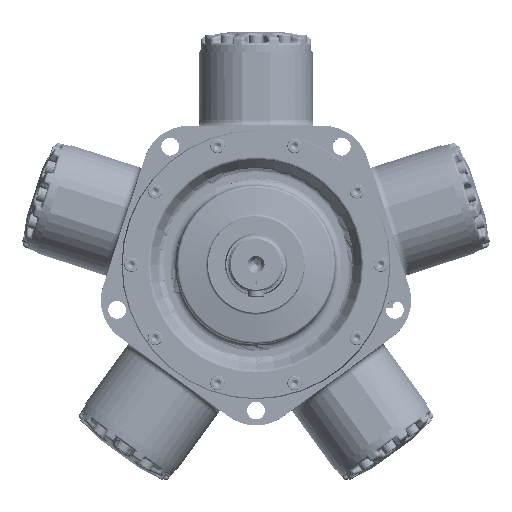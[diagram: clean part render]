
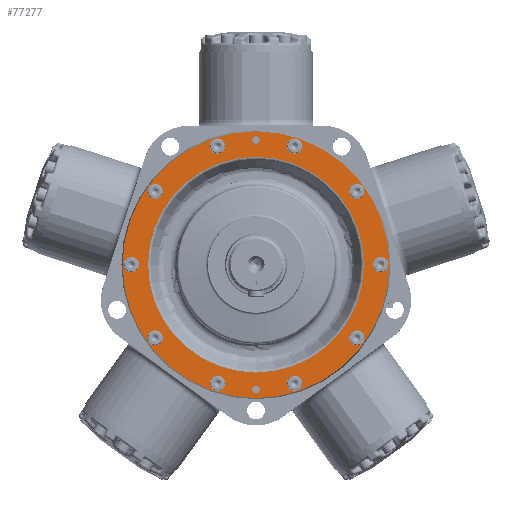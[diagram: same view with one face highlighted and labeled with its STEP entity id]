
A CAD part, top view. The second image highlights one B-rep face of the part: STEP entity #77277.
In plain terms, the highlighted planar face has unit normal (0, 0, 1).
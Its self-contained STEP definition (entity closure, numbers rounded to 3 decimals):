
#3657=FACE_BOUND('',#18332,.T.);
#3658=FACE_BOUND('',#18333,.T.);
#3659=FACE_BOUND('',#18334,.T.);
#3660=FACE_BOUND('',#18335,.T.);
#3661=FACE_BOUND('',#18336,.T.);
#3662=FACE_BOUND('',#18337,.T.);
#3663=FACE_BOUND('',#18338,.T.);
#3664=FACE_BOUND('',#18339,.T.);
#3665=FACE_BOUND('',#18340,.T.);
#3666=FACE_BOUND('',#18341,.T.);
#3667=FACE_BOUND('',#18342,.T.);
#3668=FACE_BOUND('',#18343,.T.);
#3669=FACE_BOUND('',#18344,.T.);
#8602=PLANE('',#84334);
#13168=FACE_OUTER_BOUND('',#18331,.T.);
#18331=EDGE_LOOP('',(#69916));
#18332=EDGE_LOOP('',(#69917));
#18333=EDGE_LOOP('',(#69918));
#18334=EDGE_LOOP('',(#69919));
#18335=EDGE_LOOP('',(#69920));
#18336=EDGE_LOOP('',(#69921));
#18337=EDGE_LOOP('',(#69922));
#18338=EDGE_LOOP('',(#69923));
#18339=EDGE_LOOP('',(#69924));
#18340=EDGE_LOOP('',(#69925));
#18341=EDGE_LOOP('',(#69926));
#18342=EDGE_LOOP('',(#69927));
#18343=EDGE_LOOP('',(#69928));
#18344=EDGE_LOOP('',(#69929));
#29599=CIRCLE('',#84258,4.188);
#29601=CIRCLE('',#84261,4.188);
#29603=CIRCLE('',#84264,8.5);
#29604=CIRCLE('',#84266,8.5);
#29605=CIRCLE('',#84268,8.5);
#29606=CIRCLE('',#84270,8.5);
#29607=CIRCLE('',#84272,8.5);
#29608=CIRCLE('',#84274,8.5);
#29609=CIRCLE('',#84276,8.5);
#29610=CIRCLE('',#84278,8.5);
#29611=CIRCLE('',#84280,8.5);
#29613=CIRCLE('',#84283,8.5);
#29614=CIRCLE('',#84285,149.491);
#29622=CIRCLE('',#84327,120.896);
#36251=VERTEX_POINT('',#193122);
#36253=VERTEX_POINT('',#193128);
#36255=VERTEX_POINT('',#193134);
#36256=VERTEX_POINT('',#193138);
#36257=VERTEX_POINT('',#193142);
#36258=VERTEX_POINT('',#193146);
#36259=VERTEX_POINT('',#193150);
#36260=VERTEX_POINT('',#193154);
#36261=VERTEX_POINT('',#193158);
#36262=VERTEX_POINT('',#193162);
#36263=VERTEX_POINT('',#193166);
#36265=VERTEX_POINT('',#193172);
#36266=VERTEX_POINT('',#193176);
#36515=VERTEX_POINT('',#194701);
#47660=EDGE_CURVE('',#36251,#36251,#29599,.T.);
#47663=EDGE_CURVE('',#36253,#36253,#29601,.T.);
#47667=EDGE_CURVE('',#36255,#36255,#29603,.T.);
#47669=EDGE_CURVE('',#36256,#36256,#29604,.T.);
#47671=EDGE_CURVE('',#36257,#36257,#29605,.T.);
#47673=EDGE_CURVE('',#36258,#36258,#29606,.T.);
#47675=EDGE_CURVE('',#36259,#36259,#29607,.T.);
#47677=EDGE_CURVE('',#36260,#36260,#29608,.T.);
#47679=EDGE_CURVE('',#36261,#36261,#29609,.T.);
#47681=EDGE_CURVE('',#36262,#36262,#29610,.T.);
#47683=EDGE_CURVE('',#36263,#36263,#29611,.T.);
#47686=EDGE_CURVE('',#36265,#36265,#29613,.T.);
#47687=EDGE_CURVE('',#36266,#36266,#29614,.T.);
#47998=EDGE_CURVE('',#36515,#36515,#29622,.T.);
#69916=ORIENTED_EDGE('',*,*,#47687,.F.);
#69917=ORIENTED_EDGE('',*,*,#47998,.T.);
#69918=ORIENTED_EDGE('',*,*,#47686,.T.);
#69919=ORIENTED_EDGE('',*,*,#47683,.T.);
#69920=ORIENTED_EDGE('',*,*,#47681,.T.);
#69921=ORIENTED_EDGE('',*,*,#47679,.T.);
#69922=ORIENTED_EDGE('',*,*,#47677,.T.);
#69923=ORIENTED_EDGE('',*,*,#47675,.T.);
#69924=ORIENTED_EDGE('',*,*,#47673,.T.);
#69925=ORIENTED_EDGE('',*,*,#47671,.T.);
#69926=ORIENTED_EDGE('',*,*,#47669,.T.);
#69927=ORIENTED_EDGE('',*,*,#47667,.T.);
#69928=ORIENTED_EDGE('',*,*,#47663,.T.);
#69929=ORIENTED_EDGE('',*,*,#47660,.T.);
#77277=ADVANCED_FACE('',(#13168,#3657,#3658,#3659,#3660,#3661,#3662,#3663,
#3664,#3665,#3666,#3667,#3668,#3669),#8602,.T.);
#84258=AXIS2_PLACEMENT_3D('',#193123,#101200,#101201);
#84261=AXIS2_PLACEMENT_3D('',#193129,#101207,#101208);
#84264=AXIS2_PLACEMENT_3D('',#193136,#101215,#101216);
#84266=AXIS2_PLACEMENT_3D('',#193140,#101220,#101221);
#84268=AXIS2_PLACEMENT_3D('',#193144,#101225,#101226);
#84270=AXIS2_PLACEMENT_3D('',#193148,#101230,#101231);
#84272=AXIS2_PLACEMENT_3D('',#193152,#101235,#101236);
#84274=AXIS2_PLACEMENT_3D('',#193156,#101240,#101241);
#84276=AXIS2_PLACEMENT_3D('',#193160,#101245,#101246);
#84278=AXIS2_PLACEMENT_3D('',#193164,#101250,#101251);
#84280=AXIS2_PLACEMENT_3D('',#193168,#101255,#101256);
#84283=AXIS2_PLACEMENT_3D('',#193174,#101262,#101263);
#84285=AXIS2_PLACEMENT_3D('',#193177,#101266,#101267);
#84327=AXIS2_PLACEMENT_3D('',#194702,#101501,#101502);
#84334=AXIS2_PLACEMENT_3D('',#194714,#101516,#101517);
#101200=DIRECTION('center_axis',(0.,0.,
-1.));
#101201=DIRECTION('ref_axis',(-1.,0.,0.));
#101207=DIRECTION('center_axis',(0.,0.,
-1.));
#101208=DIRECTION('ref_axis',(-1.,0.,0.));
#101215=DIRECTION('center_axis',(0.,0.,
-1.));
#101216=DIRECTION('ref_axis',(0.809,-0.588,0.));
#101220=DIRECTION('center_axis',(0.,0.,
-1.));
#101221=DIRECTION('ref_axis',(0.309,-0.951,0.));
#101225=DIRECTION('center_axis',(0.,0.,
-1.));
#101226=DIRECTION('ref_axis',(-0.309,-0.951,0.));
#101230=DIRECTION('center_axis',(0.,0.,
-1.));
#101231=DIRECTION('ref_axis',(-0.809,-0.588,0.));
#101235=DIRECTION('center_axis',(0.,0.,
-1.));
#101236=DIRECTION('ref_axis',(-1.,0.,0.));
#101240=DIRECTION('center_axis',(0.,0.,
-1.));
#101241=DIRECTION('ref_axis',(-0.809,0.588,0.));
#101245=DIRECTION('center_axis',(0.,0.,
-1.));
#101246=DIRECTION('ref_axis',(-0.309,0.951,0.));
#101250=DIRECTION('center_axis',(0.,0.,
-1.));
#101251=DIRECTION('ref_axis',(0.309,0.951,0.));
#101255=DIRECTION('center_axis',(0.,0.,
-1.));
#101256=DIRECTION('ref_axis',(0.809,0.588,0.));
#101262=DIRECTION('center_axis',(0.,0.,
-1.));
#101263=DIRECTION('ref_axis',(1.,0.,0.));
#101266=DIRECTION('center_axis',(0.,0.,
-1.));
#101267=DIRECTION('ref_axis',(0.,1.,0.));
#101501=DIRECTION('center_axis',(0.,0.,
-1.));
#101502=DIRECTION('ref_axis',(0.,-1.,0.));
#101516=DIRECTION('center_axis',(0.,0.,
1.));
#101517=DIRECTION('ref_axis',(-1.,0.,0.));
#193122=CARTESIAN_POINT('',(4.188,-139.7,85.078));
#193123=CARTESIAN_POINT('Origin',(0.,-139.7,85.078));
#193128=CARTESIAN_POINT('',(4.188,139.7,85.078));
#193129=CARTESIAN_POINT('Origin',(0.,139.7,85.078));
#193134=CARTESIAN_POINT('',(-119.896,87.11,85.078));
#193136=CARTESIAN_POINT('Origin',(-113.02,82.114,85.078));
#193138=CARTESIAN_POINT('',(-45.796,140.947,85.078));
#193140=CARTESIAN_POINT('Origin',(-43.17,132.863,85.078));
#193142=CARTESIAN_POINT('',(45.796,140.947,85.078));
#193144=CARTESIAN_POINT('Origin',(43.17,132.863,85.078));
#193146=CARTESIAN_POINT('',(119.896,87.11,85.078));
#193148=CARTESIAN_POINT('Origin',(113.02,82.114,85.078));
#193150=CARTESIAN_POINT('',(148.2,0.,85.078));
#193152=CARTESIAN_POINT('Origin',(139.7,0.,85.078));
#193154=CARTESIAN_POINT('',(119.896,-87.11,85.078));
#193156=CARTESIAN_POINT('Origin',(113.02,-82.114,85.078));
#193158=CARTESIAN_POINT('',(45.796,-140.947,85.078));
#193160=CARTESIAN_POINT('Origin',(43.17,-132.863,85.078));
#193162=CARTESIAN_POINT('',(-45.796,-140.947,85.078));
#193164=CARTESIAN_POINT('Origin',(-43.17,-132.863,85.078));
#193166=CARTESIAN_POINT('',(-119.896,-87.11,85.078));
#193168=CARTESIAN_POINT('Origin',(-113.02,-82.114,85.078));
#193172=CARTESIAN_POINT('',(-148.2,0.,85.078));
#193174=CARTESIAN_POINT('Origin',(-139.7,0.,85.078));
#193176=CARTESIAN_POINT('',(0.,-149.491,85.078));
#193177=CARTESIAN_POINT('Origin',(0.,0.,
85.078));
#194701=CARTESIAN_POINT('',(-120.896,0.,85.078));
#194702=CARTESIAN_POINT('Origin',(0.,0.,
85.078));
#194714=CARTESIAN_POINT('Origin',(0.,-135.854,
85.078));
